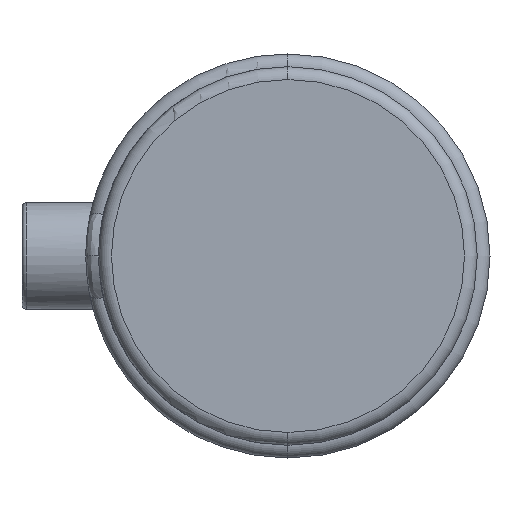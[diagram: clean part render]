
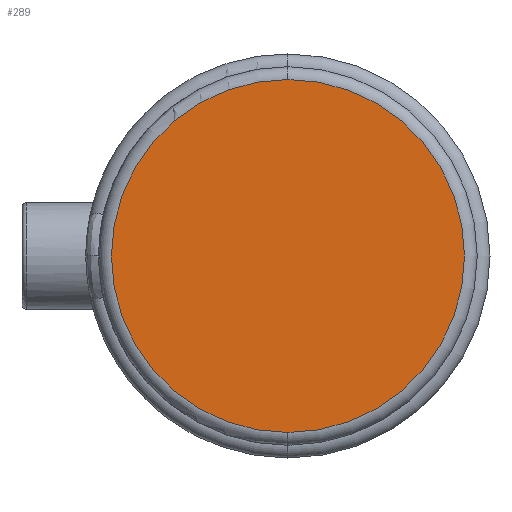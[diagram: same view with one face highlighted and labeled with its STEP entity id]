
A CAD part, left-side view. The second image highlights one B-rep face of the part: STEP entity #289.
In plain terms, the highlighted planar face has unit normal (-1, 0, 0).
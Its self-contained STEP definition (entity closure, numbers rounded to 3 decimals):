
#289 = ADVANCED_FACE ( 'NONE', ( #2538 ), #1950, .T. ) ;
#1171 = AXIS2_PLACEMENT_3D ( 'NONE', #5070, #2300, #5545 ) ;
#1309 = CARTESIAN_POINT ( 'NONE',  ( 0., 0., 0. ) ) ;
#1406 = EDGE_CURVE ( 'NONE', #5743, #3617, #4216, .T. ) ;
#1505 = CARTESIAN_POINT ( 'NONE',  ( 0., 0., 0. ) ) ;
#1785 = DIRECTION ( 'NONE',  ( 0., 0., 1. ) ) ;
#1950 = PLANE ( 'NONE',  #4008 ) ;
#1968 = DIRECTION ( 'NONE',  ( 0., 0., 1. ) ) ;
#2300 = DIRECTION ( 'NONE',  ( -1., 0., 0. ) ) ;
#2538 = FACE_OUTER_BOUND ( 'NONE', #3068, .T. ) ;
#2820 = ORIENTED_EDGE ( 'NONE', *, *, #3692, .T. ) ;
#3068 = EDGE_LOOP ( 'NONE', ( #2820, #3360 ) ) ;
#3212 = CIRCLE ( 'NONE', #3498, 41.45 ) ;
#3360 = ORIENTED_EDGE ( 'NONE', *, *, #1406, .T. ) ;
#3498 = AXIS2_PLACEMENT_3D ( 'NONE', #1309, #4539, #1785 ) ;
#3617 = VERTEX_POINT ( 'NONE', #4816 ) ;
#3692 = EDGE_CURVE ( 'NONE', #3617, #5743, #3212, .T. ) ;
#4008 = AXIS2_PLACEMENT_3D ( 'NONE', #1505, #4728, #1968 ) ;
#4216 = CIRCLE ( 'NONE', #1171, 41.45 ) ;
#4539 = DIRECTION ( 'NONE',  ( -1., 0., 0. ) ) ;
#4728 = DIRECTION ( 'NONE',  ( -1., 0., 0. ) ) ;
#4816 = CARTESIAN_POINT ( 'NONE',  ( 0., 0., 41.45 ) ) ;
#4860 = CARTESIAN_POINT ( 'NONE',  ( 0., 0., -41.45 ) ) ;
#5070 = CARTESIAN_POINT ( 'NONE',  ( 0., 0., 0. ) ) ;
#5545 = DIRECTION ( 'NONE',  ( 0., 0., 1. ) ) ;
#5743 = VERTEX_POINT ( 'NONE', #4860 ) ;
